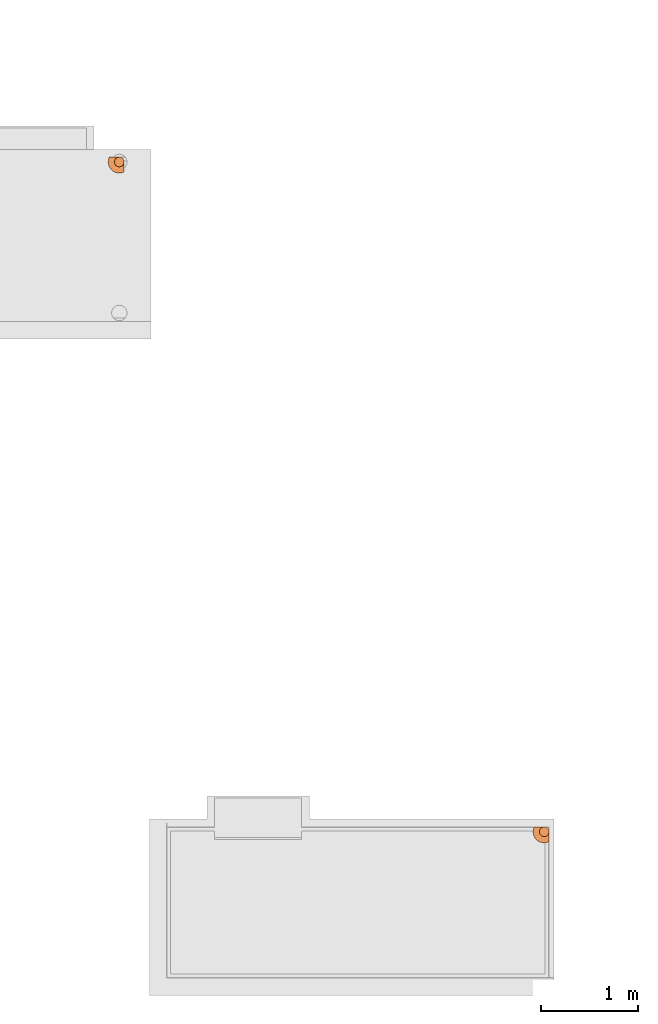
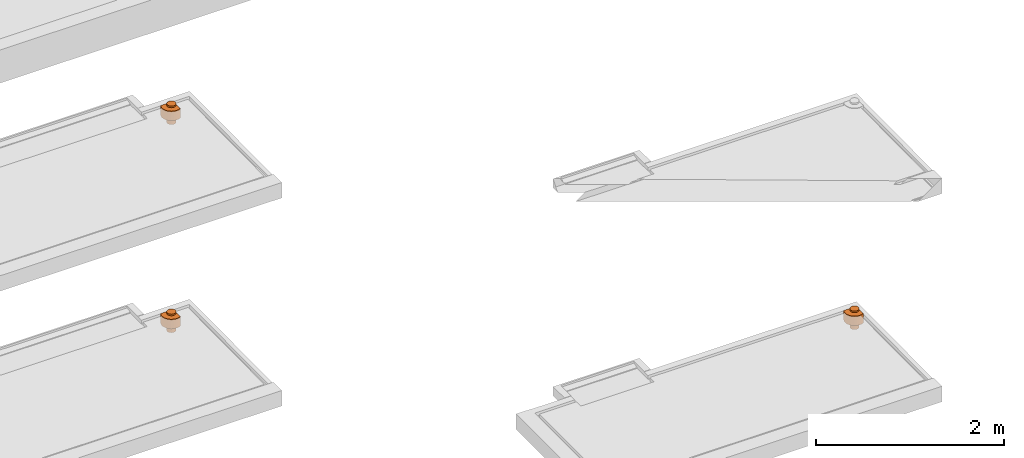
# One storey, part 28 of 31: 3 proxies, 3 elements without a shape of their own.
"""IFC2X3 building model written with IfcOpenShell, lengths in centimetres."""

from ifc_helpers import new_model, entity, si_unit, converted_unit, derived_unit, direction, frame, origin, place, context, subcontext, project, spatial, faceted_brep, source, transform, mapped, material, type_object, type_shapes, element, aggregate, save


model = new_model("IFC2X3")

# Units and contexts
model_context = context("Model", 3, precision=0.001, world=origin(), true_north=direction((6.12303176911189e-17, 1.0)))
body_context = subcontext(model_context, "Body", "Model", "MODEL_VIEW")
ifc_project = project(units=[si_unit("LENGTHUNIT", "METRE", prefix="CENTI"), si_unit("AREAUNIT", "SQUARE_METRE"), si_unit("VOLUMEUNIT", "CUBIC_METRE"), converted_unit("PLANEANGLEUNIT", "DEGREE", entity("IfcRatioMeasure", 0.0174532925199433), si_unit("PLANEANGLEUNIT", "RADIAN"), dimensions=[0, 0, 0, 0, 0, 0, 0]), si_unit("MASSUNIT", "GRAM", prefix="KILO"), derived_unit("MASSDENSITYUNIT", [(si_unit("MASSUNIT", "GRAM", prefix="KILO"), 1), (si_unit("LENGTHUNIT", "METRE"), -3)]), si_unit("TIMEUNIT", "SECOND"), si_unit("FREQUENCYUNIT", "HERTZ"), si_unit("THERMODYNAMICTEMPERATUREUNIT", "DEGREE_CELSIUS"), derived_unit("THERMALTRANSMITTANCEUNIT", [(si_unit("MASSUNIT", "GRAM", prefix="KILO"), 1), (si_unit("THERMODYNAMICTEMPERATUREUNIT", "KELVIN"), -1), (si_unit("TIMEUNIT", "SECOND"), -3)]), derived_unit("VOLUMETRICFLOWRATEUNIT", [(si_unit("LENGTHUNIT", "METRE"), 3), (si_unit("TIMEUNIT", "SECOND"), -1)]), si_unit("ELECTRICCURRENTUNIT", "AMPERE"), si_unit("ELECTRICVOLTAGEUNIT", "VOLT"), si_unit("POWERUNIT", "WATT"), si_unit("FORCEUNIT", "NEWTON"), si_unit("ILLUMINANCEUNIT", "LUX"), si_unit("LUMINOUSFLUXUNIT", "LUMEN"), si_unit("LUMINOUSINTENSITYUNIT", "CANDELA"), derived_unit("USERDEFINED", [(si_unit("MASSUNIT", "GRAM", prefix="KILO"), -1), (si_unit("LENGTHUNIT", "METRE"), -2), (si_unit("TIMEUNIT", "SECOND"), 3), (si_unit("LUMINOUSFLUXUNIT", "LUMEN"), 1)]), derived_unit("LINEARVELOCITYUNIT", [(si_unit("LENGTHUNIT", "METRE"), 1), (si_unit("TIMEUNIT", "SECOND"), -1)]), si_unit("PRESSUREUNIT", "PASCAL"), derived_unit("USERDEFINED", [(si_unit("LENGTHUNIT", "METRE"), -2), (si_unit("MASSUNIT", "GRAM", prefix="KILO"), 1), (si_unit("TIMEUNIT", "SECOND"), -2)])], contexts=[model_context])

# Site, building, storey
site_placement = place(None, origin())
site = spatial("IfcSite", under=ifc_project, at=site_placement, Name="Default", CompositionType="ELEMENT")
building_placement = place(site_placement, origin())
building = spatial("IfcBuilding", under=site, at=building_placement, Name="CAGE 03", CompositionType="ELEMENT")
storey_placement = place(building_placement, frame((0.0, 0.0, -400.0)))
storey = spatial("IfcBuildingStorey", under=building, at=storey_placement, Name="±0.00", CompositionType="ELEMENT", Elevation=-400.0)

# Assembly, proxy
assembly_1_placement = place(storey_placement, origin())
assembly_1 = element("IfcElementAssembly", 1, at=assembly_1_placement, inside=storey, Name="Assemblage Modèles génériques:BALCON TYPE 02", ObjectType="Assemblage Modèles génériques:BALCON TYPE 02", AssemblyPlace="NOTDEFINED", PredefinedType="USERDEFINED")
ifc_material = material(Name="BBGO_Résa")
building_element_proxy_type_1 = type_object("IfcBuildingElementProxyType", Name="Siphon de balcon", PredefinedType="NOTDEFINED", material=ifc_material)
shared_shape_1 = source(origin(), body_context, "Body", "Brep", [
    faceted_brep([(6.68784336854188, 14.1595272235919, 9.69999999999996), (6.68784336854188, 14.1595272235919, 0.0), (6.18834125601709, 12.9536224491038, 0.0), (6.18834125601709, 12.9536224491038, 9.69999999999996), (6.68784336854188, 14.1595272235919, 22.0), (6.18834125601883, 12.9536224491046, 22.0), (6.18834125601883, 12.9536224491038, 24.0), (6.68784336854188, 14.1595272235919, 24.0), (6.01797038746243, 11.6595272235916, 0.0), (6.01797038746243, 11.6595272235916, 9.69999999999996), (6.01797038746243, 11.6595272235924, 22.0), (6.01797038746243, 11.6595272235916, 24.0), (6.18834125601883, 10.3654319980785, 9.69999999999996), (6.18834125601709, 10.3654319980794, 0.0), (6.68784336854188, 9.15952722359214, 0.0), (6.68784336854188, 9.15952722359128, 9.69999999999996), (6.18834125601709, 10.3654319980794, 22.0), (6.68784336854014, 9.15952722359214, 22.0), (6.68784336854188, 9.15952722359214, 24.0), (6.18834125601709, 10.3654319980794, 24.0), (7.48243648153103, 8.12399331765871, 0.0), (7.48243648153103, 8.12399331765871, 9.69999999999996), (7.48243648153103, 8.12399331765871, 24.0), (7.48243648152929, 8.12399331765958, 22.0), (7.48243648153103, 15.1950611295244, 9.69999999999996), (7.48243648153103, 15.1950611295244, 0.0), (7.48243648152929, 15.1950611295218, 22.0), (7.48243648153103, 15.1950611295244, 24.0), (8.51797038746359, 7.32940020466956, 9.69999999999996), (8.51797038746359, 7.32940020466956, 0.0), (9.72387516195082, 6.82989809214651, 0.0), (9.72387516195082, 6.82989809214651, 9.69999999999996), (8.51797038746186, 7.32940020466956, 22.0), (9.72387516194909, 6.82989809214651, 22.0), (9.72387516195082, 6.82989809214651, 24.0), (8.51797038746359, 7.32940020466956, 24.0), (11.017970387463, 6.65952722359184, 0.0), (11.0179703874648, 6.65952722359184, 9.69999999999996), (11.017970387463, 6.65952722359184, 22.0), (11.017970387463, 6.65952722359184, 24.0), (12.312065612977, 6.82989809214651, 9.69999999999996), (12.3120656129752, 6.82989809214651, 0.0), (13.5179703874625, 7.32940020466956, 0.0), (13.5179703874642, 7.32940020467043, 9.69999999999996), (12.3120656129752, 6.82989809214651, 22.0), (13.5179703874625, 7.32940020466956, 22.0), (13.5179703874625, 7.32940020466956, 24.0), (12.3120656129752, 6.82989809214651, 24.0), (14.553504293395, 8.12399331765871, 0.0), (14.5535042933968, 8.12399331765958, 9.69999999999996), (14.553504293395, 8.12399331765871, 22.0), (14.553504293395, 8.12399331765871, 24.0), (15.3480974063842, 14.1595272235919, 22.0), (15.8475995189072, 12.9536224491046, 22.0), (16.0179703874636, 11.6595272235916, 22.0), (15.8475995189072, 10.3654319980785, 22.0), (15.3480974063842, 9.15952722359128, 22.0), (0.15952722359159, 7.87215187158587, 22.0), (1.41532336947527, 5.33187598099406, 22.0), (3.25417812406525, 3.17580577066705, 22.0), (5.56443893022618, 1.53485465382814, 22.0), (8.20583014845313, 0.508658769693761, 22.0), (11.0179703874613, 0.15952722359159, 22.0), (13.8301106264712, 0.508658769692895, 22.0), (16.4715018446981, 1.5348546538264, 22.0), (18.7817626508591, 3.17580577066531, 22.0), (20.620617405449, 5.33187598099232, 22.0), (21.8764135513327, 7.87215187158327, 22.0), (14.553504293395, 15.1950611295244, 22.0), (15.3480974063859, 9.15952722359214, 9.69999999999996), (15.847599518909, 10.3654319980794, 9.69999999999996), (16.0179703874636, 11.6595272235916, 9.69999999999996), (15.847599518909, 12.9536224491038, 9.69999999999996), (15.3480974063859, 14.159527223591, 9.69999999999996), (14.553504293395, 15.1950611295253, 9.69999999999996), (21.8764135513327, 7.87215187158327, 9.69999999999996), (20.620617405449, 5.33187598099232, 9.69999999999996), (18.7817626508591, 3.17580577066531, 9.69999999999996), (16.4715018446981, 1.5348546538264, 9.69999999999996), (13.8301106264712, 0.508658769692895, 9.69999999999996), (11.0179703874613, 0.15952722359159, 9.69999999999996), (8.20583014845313, 0.508658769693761, 9.69999999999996), (5.56443893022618, 1.53485465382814, 9.69999999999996), (3.25417812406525, 3.17580577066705, 9.69999999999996), (1.41532336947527, 5.33187598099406, 9.69999999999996), (0.15952722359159, 7.87215187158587, 9.69999999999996), (0.15952722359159, 7.87215187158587, 21.5299497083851), (21.8764135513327, 7.87215187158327, 21.3763717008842), (15.3480974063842, 9.15952722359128, 24.0), (15.8475995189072, 10.3654319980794, 24.0), (16.0179703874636, 11.6595272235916, 24.0), (15.847599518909, 12.9536224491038, 24.0), (15.3480974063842, 14.159527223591, 24.0), (14.553504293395, 15.1950611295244, 24.0), (13.5179703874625, 15.9896542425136, 24.0), (12.3120656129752, 16.4891563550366, 24.0), (11.017970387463, 16.6595272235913, 24.0), (9.72387516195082, 16.4891563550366, 24.0), (8.51797038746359, 15.9896542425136, 24.0), (15.3480974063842, 14.159527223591, 0.0), (15.847599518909, 12.9536224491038, 0.0), (16.0179703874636, 11.6595272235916, 0.0), (15.8475995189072, 10.3654319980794, 0.0), (15.3480974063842, 9.15952722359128, 0.0), (8.51797038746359, 15.9896542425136, 0.0), (9.72387516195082, 16.4891563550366, 0.0), (11.017970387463, 16.6595272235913, 0.0), (12.3120656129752, 16.4891563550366, 0.0), (13.5179703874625, 15.9896542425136, 0.0), (14.553504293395, 15.1950611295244, 0.0)], [[[0, 1, 2, 3]], [[4, 5, 6, 7]], [[8, 9, 3, 2]], [[5, 10, 11, 6]], [[12, 13, 14, 15]], [[16, 17, 18, 19]], [[8, 13, 12, 9]], [[10, 16, 19, 11]], [[15, 14, 20, 21]], [[22, 18, 17, 23]], [[1, 0, 24, 25]], [[26, 4, 7, 27]], [[28, 29, 30, 31]], [[32, 33, 34, 35]], [[36, 37, 31, 30]], [[33, 38, 39, 34]], [[40, 41, 42, 43]], [[44, 45, 46, 47]], [[36, 41, 40, 37]], [[38, 44, 47, 39]], [[43, 42, 48, 49]], [[45, 50, 51, 46]], [[29, 28, 21, 20]], [[32, 35, 22, 23]], [[52, 53, 54, 55, 56, 50, 45, 44, 38, 33, 32, 23, 17, 16, 10, 5, 4, 26, 57, 58, 59, 60, 61, 62, 63, 64, 65, 66, 67, 68]], [[21, 28, 31, 37, 40, 43, 49, 69, 70, 71, 72, 73, 74, 75, 76, 77, 78, 79, 80, 81, 82, 83, 84, 85, 24, 0, 3, 9, 12, 15]], [[57, 26, 24, 85, 86]], [[86, 85, 84, 58, 57]], [[83, 59, 58, 84]], [[60, 82, 81, 61]], [[83, 82, 60, 59]], [[61, 81, 80, 62]], [[78, 64, 63, 79]], [[77, 65, 64, 78]], [[76, 75, 87, 67, 66]], [[77, 76, 66, 65]], [[79, 63, 62, 80]], [[68, 67, 87, 75, 74]], [[34, 39, 47, 46, 51, 88, 89, 90, 91, 92, 93, 94, 95, 96, 97, 98, 27, 7, 6, 11, 19, 18, 22, 35]], [[99, 100, 101, 102, 103, 48, 42, 41, 36, 30, 29, 20, 14, 13, 8, 2, 1, 25, 104, 105, 106, 107, 108, 109]], [[103, 102, 70, 69]], [[88, 56, 55, 89]], [[48, 103, 69, 49]], [[50, 56, 88, 51]], [[101, 100, 72, 71]], [[54, 53, 91, 90]], [[101, 71, 70, 102]], [[54, 90, 89, 55]], [[100, 99, 73, 72]], [[91, 53, 52, 92]], [[74, 109, 108, 94, 93, 68]], [[99, 109, 74, 73]], [[52, 68, 93, 92]], [[94, 108, 107, 95]], [[104, 25, 24, 26, 27, 98]], [[96, 106, 105, 97]], [[104, 98, 97, 105]], [[95, 107, 106, 96]]]),
])
type_shapes(building_element_proxy_type_1, [shared_shape_1])
proxy_1_placement = place(assembly_1_placement, frame((9237.33040780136, 4657.20701688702, 988.0), z_axis=(0.0, 0.0, 1.0), x_axis=(0.707106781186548, -0.707106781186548, 0.0)))
proxy_1 = element("IfcBuildingElementProxy", 2, at=proxy_1_placement, type_object=building_element_proxy_type_1, material=ifc_material, Name="Siphon de balcon3:Siphon de balcon", ObjectType="Siphon de balcon", context=body_context, shape_type="MappedRepresentation", body=[
    mapped(shared_shape_1, transform((0.0, 0.0, 0.0), scale=1.0)),
])
aggregate(assembly_1, [proxy_1])

assembly_2_placement = place(storey_placement, origin())
assembly_2 = element("IfcElementAssembly", 3, at=assembly_2_placement, inside=storey, Name="Assemblage Modèles génériques:BALCON TYPE 02", ObjectType="Assemblage Modèles génériques:BALCON TYPE 02", AssemblyPlace="NOTDEFINED", PredefinedType="USERDEFINED")
building_element_proxy_type_2 = type_object("IfcBuildingElementProxyType", Name="Siphon de balcon", PredefinedType="NOTDEFINED", material=ifc_material)
shared_shape_2 = source(origin(), body_context, "Body", "Brep", [
    faceted_brep([(6.68784336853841, 14.159527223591, 9.69999999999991), (6.68784336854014, 14.1595272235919, 0.0), (6.18834125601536, 12.9536224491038, 0.0), (6.18834125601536, 12.9536224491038, 9.69999999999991), (6.68784336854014, 14.1595272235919, 22.0), (6.18834125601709, 12.9536224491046, 22.0), (6.18834125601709, 12.9536224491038, 24.0), (6.68784336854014, 14.1595272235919, 24.0), (6.0179703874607, 11.6595272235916, 0.0), (6.0179703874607, 11.6595272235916, 9.69999999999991), (6.0179703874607, 11.6595272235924, 22.0), (6.0179703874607, 11.6595272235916, 24.0), (6.18834125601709, 10.3654319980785, 9.69999999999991), (6.18834125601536, 10.3654319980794, 0.0), (6.68784336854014, 9.15952722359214, 0.0), (6.68784336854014, 9.15952722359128, 9.69999999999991), (6.18834125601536, 10.3654319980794, 22.0), (6.68784336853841, 9.15952722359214, 22.0), (6.68784336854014, 9.15952722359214, 24.0), (6.18834125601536, 10.3654319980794, 24.0), (7.48243648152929, 8.12399331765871, 0.0), (7.48243648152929, 8.12399331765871, 9.69999999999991), (7.48243648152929, 8.12399331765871, 24.0), (7.48243648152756, 8.12399331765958, 22.0), (7.48243648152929, 15.1950611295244, 9.69999999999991), (7.48243648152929, 15.1950611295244, 0.0), (7.48243648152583, 15.1950611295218, 22.0), (7.48243648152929, 15.1950611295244, 24.0), (8.51797038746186, 7.32940020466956, 9.69999999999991), (8.51797038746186, 7.32940020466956, 0.0), (9.72387516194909, 6.82989809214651, 0.0), (9.72387516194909, 6.82989809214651, 9.69999999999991), (8.51797038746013, 7.32940020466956, 22.0), (9.72387516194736, 6.82989809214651, 22.0), (9.72387516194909, 6.82989809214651, 24.0), (8.51797038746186, 7.32940020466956, 24.0), (11.0179703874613, 6.65952722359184, 0.0), (11.0179703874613, 6.65952722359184, 9.69999999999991), (11.0179703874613, 6.65952722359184, 22.0), (11.0179703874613, 6.65952722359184, 24.0), (12.3120656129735, 6.82989809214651, 9.69999999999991), (12.3120656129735, 6.82989809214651, 0.0), (13.5179703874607, 7.32940020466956, 0.0), (13.5179703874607, 7.32940020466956, 9.69999999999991), (12.3120656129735, 6.82989809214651, 22.0), (13.5179703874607, 7.32940020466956, 22.0), (13.5179703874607, 7.32940020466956, 24.0), (12.3120656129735, 6.82989809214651, 24.0), (14.5535042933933, 8.12399331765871, 0.0), (14.5535042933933, 8.12399331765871, 9.69999999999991), (14.5535042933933, 8.12399331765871, 22.0), (14.5535042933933, 8.12399331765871, 24.0), (15.3480974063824, 14.1595272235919, 22.0), (15.8475995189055, 12.9536224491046, 22.0), (16.0179703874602, 11.6595272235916, 22.0), (15.8475995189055, 10.3654319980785, 22.0), (15.3480974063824, 9.15952722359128, 22.0), (0.159527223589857, 7.87215187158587, 22.0), (1.41532336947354, 5.33187598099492, 22.0), (3.25417812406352, 3.17580577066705, 22.0), (5.56443893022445, 1.53485465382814, 22.0), (8.20583014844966, 0.508658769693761, 22.0), (11.0179703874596, 0.15952722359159, 22.0), (13.8301106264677, 0.508658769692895, 22.0), (16.4715018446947, 1.5348546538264, 22.0), (18.7817626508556, 3.17580577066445, 22.0), (20.6206174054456, 5.33187598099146, 22.0), (21.876413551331, 7.8721518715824, 22.0), (14.5535042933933, 15.1950611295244, 22.0), (15.3480974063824, 9.15952722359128, 9.69999999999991), (15.8475995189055, 10.3654319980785, 9.69999999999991), (16.0179703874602, 11.6595272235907, 9.69999999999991), (15.8475995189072, 12.9536224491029, 9.69999999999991), (15.3480974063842, 14.1595272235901, 9.69999999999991), (14.5535042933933, 15.1950611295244, 9.69999999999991), (21.876413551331, 7.8721518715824, 9.69999999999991), (20.6206174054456, 5.33187598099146, 9.69999999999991), (18.7817626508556, 3.17580577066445, 9.69999999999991), (16.4715018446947, 1.5348546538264, 9.69999999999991), (13.8301106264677, 0.508658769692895, 9.69999999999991), (11.0179703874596, 0.15952722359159, 9.69999999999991), (8.20583014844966, 0.508658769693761, 9.69999999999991), (5.56443893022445, 1.53485465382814, 9.69999999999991), (3.25417812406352, 3.17580577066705, 9.69999999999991), (1.41532336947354, 5.33187598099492, 9.69999999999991), (0.159527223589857, 7.87215187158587, 9.69999999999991), (0.159527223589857, 7.87215187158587, 21.5299497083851), (21.876413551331, 7.8721518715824, 21.3763717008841), (15.3480974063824, 9.15952722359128, 24.0), (15.8475995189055, 10.3654319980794, 24.0), (16.0179703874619, 11.6595272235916, 24.0), (15.8475995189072, 12.9536224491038, 24.0), (15.3480974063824, 14.159527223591, 24.0), (14.5535042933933, 15.1950611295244, 24.0), (13.5179703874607, 15.9896542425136, 24.0), (12.3120656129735, 16.4891563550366, 24.0), (11.0179703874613, 16.6595272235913, 24.0), (9.72387516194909, 16.4891563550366, 24.0), (8.51797038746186, 15.9896542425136, 24.0), (15.3480974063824, 14.159527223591, 0.0), (15.8475995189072, 12.9536224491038, 0.0), (16.0179703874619, 11.6595272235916, 0.0), (15.8475995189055, 10.3654319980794, 0.0), (15.3480974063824, 9.15952722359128, 0.0), (8.51797038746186, 15.9896542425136, 0.0), (9.72387516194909, 16.4891563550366, 0.0), (11.0179703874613, 16.6595272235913, 0.0), (12.3120656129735, 16.4891563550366, 0.0), (13.5179703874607, 15.9896542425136, 0.0), (14.5535042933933, 15.1950611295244, 0.0)], [[[0, 1, 2, 3]], [[4, 5, 6, 7]], [[8, 9, 3, 2]], [[5, 10, 11, 6]], [[12, 13, 14, 15]], [[16, 17, 18, 19]], [[8, 13, 12, 9]], [[10, 16, 19, 11]], [[15, 14, 20, 21]], [[22, 18, 17, 23]], [[1, 0, 24, 25]], [[26, 4, 7, 27]], [[28, 29, 30, 31]], [[32, 33, 34, 35]], [[36, 37, 31, 30]], [[33, 38, 39, 34]], [[40, 41, 42, 43]], [[44, 45, 46, 47]], [[36, 41, 40, 37]], [[38, 44, 47, 39]], [[43, 42, 48, 49]], [[45, 50, 51, 46]], [[29, 28, 21, 20]], [[32, 35, 22, 23]], [[52, 53, 54, 55, 56, 50, 45, 44, 38, 33, 32, 23, 17, 16, 10, 5, 4, 26, 57, 58, 59, 60, 61, 62, 63, 64, 65, 66, 67, 68]], [[21, 28, 31, 37, 40, 43, 49, 69, 70, 71, 72, 73, 74, 75, 76, 77, 78, 79, 80, 81, 82, 83, 84, 85, 24, 0, 3, 9, 12, 15]], [[57, 26, 24, 85, 86]], [[86, 85, 84, 58, 57]], [[83, 59, 58, 84]], [[60, 82, 81, 61]], [[83, 82, 60, 59]], [[61, 81, 80, 62]], [[78, 64, 63, 79]], [[77, 65, 64, 78]], [[76, 75, 87, 67, 66]], [[77, 76, 66, 65]], [[79, 63, 62, 80]], [[68, 67, 87, 75, 74]], [[34, 39, 47, 46, 51, 88, 89, 90, 91, 92, 93, 94, 95, 96, 97, 98, 27, 7, 6, 11, 19, 18, 22, 35]], [[99, 100, 101, 102, 103, 48, 42, 41, 36, 30, 29, 20, 14, 13, 8, 2, 1, 25, 104, 105, 106, 107, 108, 109]], [[48, 103, 69, 49]], [[50, 56, 88, 51]], [[69, 103, 102, 70]], [[88, 56, 55, 89]], [[101, 100, 72, 71]], [[54, 53, 91, 90]], [[101, 71, 70, 102]], [[54, 90, 89, 55]], [[100, 99, 73, 72]], [[91, 53, 52, 92]], [[74, 109, 108, 94, 93, 68]], [[99, 109, 74, 73]], [[52, 68, 93, 92]], [[94, 108, 107, 95]], [[104, 25, 24, 26, 27, 98]], [[96, 106, 105, 97]], [[104, 98, 97, 105]], [[95, 107, 106, 96]]]),
])
type_shapes(building_element_proxy_type_2, [shared_shape_2])
proxy_2_placement = place(assembly_2_placement, frame((9237.33040780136, 4657.20701688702, 718.0), z_axis=(0.0, 0.0, 1.0), x_axis=(0.707106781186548, -0.707106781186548, 0.0)))
proxy_2 = element("IfcBuildingElementProxy", 4, at=proxy_2_placement, type_object=building_element_proxy_type_2, material=ifc_material, Name="Siphon de balcon15:Siphon de balcon", ObjectType="Siphon de balcon", context=body_context, shape_type="MappedRepresentation", body=[
    mapped(shared_shape_2, transform((0.0, 0.0, 0.0), scale=1.0)),
])
aggregate(assembly_2, [proxy_2])

assembly_3_placement = place(storey_placement, origin())
assembly_3 = element("IfcElementAssembly", 5, at=assembly_3_placement, inside=storey, Name="Assemblage Modèles génériques:BALCON TYPE 05", ObjectType="Assemblage Modèles génériques:BALCON TYPE 05", AssemblyPlace="NOTDEFINED", PredefinedType="USERDEFINED")
building_element_proxy_type_3 = type_object("IfcBuildingElementProxyType", Name="Siphon de balcon", PredefinedType="NOTDEFINED", material=ifc_material)
shared_shape_3 = source(origin(), body_context, "Body", "Brep", [
    faceted_brep([(10.3541591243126, 16.4778834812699, 9.69999999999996), (10.3541591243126, 16.4778834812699, 0.0), (9.14825434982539, 15.9783813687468, 0.0), (9.14825434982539, 15.9783813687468, 9.69999999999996), (10.3541591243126, 16.4778834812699, 22.0), (9.14825434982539, 15.9783813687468, 22.0), (9.14825434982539, 15.9783813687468, 24.0), (10.3541591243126, 16.4778834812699, 24.0), (8.11272044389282, 15.1837882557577, 0.0), (8.11272044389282, 15.1837882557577, 9.69999999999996), (8.11272044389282, 15.1837882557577, 22.0), (8.11272044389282, 15.1837882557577, 24.0), (7.31812733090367, 14.1482543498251, 9.69999999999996), (7.31812733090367, 14.1482543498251, 0.0), (6.81862521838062, 12.9423495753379, 0.0), (6.81862521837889, 12.942349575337, 9.69999999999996), (7.31812733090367, 14.1482543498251, 22.0), (6.81862521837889, 12.942349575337, 22.0), (6.81862521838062, 12.9423495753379, 24.0), (7.31812733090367, 14.1482543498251, 24.0), (6.64825434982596, 11.6482543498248, 0.0), (6.64825434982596, 11.6482543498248, 9.69999999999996), (6.64825434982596, 11.6482543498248, 24.0), (6.64825434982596, 11.6482543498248, 22.0), (11.6482543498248, 16.6482543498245, 9.69999999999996), (11.6482543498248, 16.6482543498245, 0.0), (11.6482543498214, 16.6482543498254, 22.0), (11.6482543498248, 16.6482543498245, 24.0), (6.81862521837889, 10.3541591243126, 9.69999999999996), (6.81862521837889, 10.3541591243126, 0.0), (7.31812733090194, 9.14825434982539, 0.0), (7.31812733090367, 9.14825434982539, 9.69999999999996), (6.81862521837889, 10.3541591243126, 22.0), (7.31812733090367, 9.14825434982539, 22.0), (7.31812733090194, 9.14825434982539, 24.0), (6.81862521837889, 10.3541591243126, 24.0), (8.11272044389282, 8.11272044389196, 0.0), (8.11272044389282, 8.11272044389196, 9.69999999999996), (8.11272044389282, 8.11272044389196, 22.0), (8.11272044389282, 8.11272044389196, 24.0), (9.14825434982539, 7.31812733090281, 9.69999999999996), (9.14825434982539, 7.31812733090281, 0.0), (10.3541591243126, 6.81862521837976, 0.0), (10.3541591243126, 6.81862521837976, 9.69999999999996), (9.14825434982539, 7.31812733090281, 22.0), (10.3541591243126, 6.81862521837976, 22.0), (10.3541591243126, 6.81862521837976, 24.0), (9.14825434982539, 7.31812733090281, 24.0), (11.6482543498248, 6.64825434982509, 0.0), (11.6482543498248, 6.64825434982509, 9.69999999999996), (11.6482543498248, 6.64825434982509, 22.0), (11.6482543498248, 6.64825434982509, 24.0), (16.4778834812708, 10.3541591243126, 22.0), (15.978381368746, 9.14825434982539, 22.0), (15.1837882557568, 8.11272044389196, 22.0), (14.1482543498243, 7.31812733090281, 22.0), (12.942349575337, 6.81862521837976, 22.0), (1.29209676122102, 16.6482543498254, 22.0), (0.383832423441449, 13.964026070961, 22.0), (0.15952722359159, 11.1391875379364, 22.0), (0.632800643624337, 8.34525879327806, 22.0), (1.77491621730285, 5.75188308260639, 22.0), (3.51652636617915, 3.51652636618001, 22.0), (5.75188308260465, 1.77491621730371, 22.0), (8.34525879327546, 0.632800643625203, 22.0), (11.1391875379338, 0.159527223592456, 22.0), (13.9640260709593, 0.383832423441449, 22.0), (16.6482543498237, 1.29209676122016, 22.0), (16.6482543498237, 11.6482543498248, 22.0), (12.942349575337, 6.81862521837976, 9.69999999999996), (14.1482543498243, 7.31812733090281, 9.69999999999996), (15.1837882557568, 8.11272044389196, 9.69999999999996), (15.978381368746, 9.14825434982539, 9.69999999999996), (16.4778834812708, 10.3541591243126, 9.69999999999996), (16.6482543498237, 11.6482543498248, 9.69999999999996), (16.6482543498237, 1.29209676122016, 9.69999999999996), (13.9640260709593, 0.383832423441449, 9.69999999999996), (11.1391875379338, 0.159527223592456, 9.69999999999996), (8.34525879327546, 0.632800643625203, 9.69999999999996), (5.75188308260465, 1.77491621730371, 9.69999999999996), (3.51652636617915, 3.51652636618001, 9.69999999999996), (1.77491621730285, 5.75188308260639, 9.69999999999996), (0.632800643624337, 8.34525879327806, 9.69999999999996), (0.15952722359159, 11.1391875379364, 9.69999999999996), (0.383832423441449, 13.964026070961, 9.69999999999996), (1.29209676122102, 16.6482543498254, 9.69999999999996), (1.29209676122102, 16.6482543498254, 21.5299497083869), (16.6482543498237, 1.29209676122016, 21.3763717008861), (12.942349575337, 6.81862521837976, 24.0), (14.1482543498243, 7.31812733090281, 24.0), (15.1837882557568, 8.11272044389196, 24.0), (15.978381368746, 9.14825434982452, 24.0), (16.477883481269, 10.3541591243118, 24.0), (16.6482543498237, 11.6482543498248, 24.0), (16.4778834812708, 12.942349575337, 24.0), (15.9783813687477, 14.1482543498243, 24.0), (15.1837882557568, 15.1837882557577, 24.0), (14.1482543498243, 15.9783813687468, 24.0), (12.942349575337, 16.4778834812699, 24.0), (14.1482543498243, 7.31812733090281, 0.0), (12.942349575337, 6.81862521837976, 0.0), (12.942349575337, 16.4778834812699, 0.0), (14.1482543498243, 15.9783813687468, 0.0), (15.1837882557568, 15.1837882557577, 0.0), (15.9783813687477, 14.1482543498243, 0.0), (16.4778834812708, 12.942349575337, 0.0), (16.6482543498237, 11.6482543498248, 0.0), (16.477883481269, 10.3541591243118, 0.0), (15.978381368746, 9.14825434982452, 0.0), (15.1837882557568, 8.11272044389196, 0.0)], [[[0, 1, 2, 3]], [[4, 5, 6, 7]], [[8, 9, 3, 2]], [[5, 10, 11, 6]], [[12, 13, 14, 15]], [[16, 17, 18, 19]], [[8, 13, 12, 9]], [[10, 16, 19, 11]], [[15, 14, 20, 21]], [[22, 18, 17, 23]], [[1, 0, 24, 25]], [[26, 4, 7, 27]], [[28, 29, 30, 31]], [[32, 33, 34, 35]], [[36, 37, 31, 30]], [[33, 38, 39, 34]], [[40, 41, 42, 43]], [[44, 45, 46, 47]], [[36, 41, 40, 37]], [[38, 44, 47, 39]], [[43, 42, 48, 49]], [[45, 50, 51, 46]], [[29, 28, 21, 20]], [[32, 35, 22, 23]], [[52, 53, 54, 55, 56, 50, 45, 44, 38, 33, 32, 23, 17, 16, 10, 5, 4, 26, 57, 58, 59, 60, 61, 62, 63, 64, 65, 66, 67, 68]], [[21, 28, 31, 37, 40, 43, 49, 69, 70, 71, 72, 73, 74, 75, 76, 77, 78, 79, 80, 81, 82, 83, 84, 85, 24, 0, 3, 9, 12, 15]], [[57, 26, 24, 85, 86]], [[86, 85, 84, 58, 57]], [[83, 59, 58, 84]], [[60, 82, 81, 61]], [[83, 82, 60, 59]], [[61, 81, 80, 62]], [[78, 64, 63, 79]], [[77, 65, 64, 78]], [[76, 75, 87, 67, 66]], [[77, 76, 66, 65]], [[79, 63, 62, 80]], [[68, 67, 87, 75, 74]], [[22, 35, 34, 39, 47, 46, 51, 88, 89, 90, 91, 92, 93, 94, 95, 96, 97, 98, 27, 7, 6, 11, 19, 18]], [[99, 100, 48, 42, 41, 36, 30, 29, 20, 14, 13, 8, 2, 1, 25, 101, 102, 103, 104, 105, 106, 107, 108, 109]], [[48, 100, 69, 49]], [[51, 50, 56, 88]], [[99, 70, 69, 100]], [[56, 55, 89, 88]], [[109, 108, 72, 71]], [[54, 53, 91, 90]], [[109, 71, 70, 99]], [[54, 90, 89, 55]], [[108, 107, 73, 72]], [[91, 53, 52, 92]], [[74, 106, 105, 94, 93, 68]], [[107, 106, 74, 73]], [[52, 68, 93, 92]], [[94, 105, 104, 95]], [[101, 25, 24, 26, 27, 98]], [[96, 103, 102, 97]], [[101, 98, 97, 102]], [[95, 104, 103, 96]]]),
])
type_shapes(building_element_proxy_type_3, [shared_shape_3])
proxy_3_placement = place(assembly_3_placement, frame((9680.71756579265, 3954.01241172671, 988.0)))
proxy_3 = element("IfcBuildingElementProxy", 6, at=proxy_3_placement, type_object=building_element_proxy_type_3, material=ifc_material, Name="Siphon de balcon16:Siphon de balcon", ObjectType="Siphon de balcon", context=body_context, shape_type="MappedRepresentation", body=[
    mapped(shared_shape_3, transform((0.0, 0.0, 0.0), scale=1.0)),
])
aggregate(assembly_3, [proxy_3])

save(model, "model.ifc")
